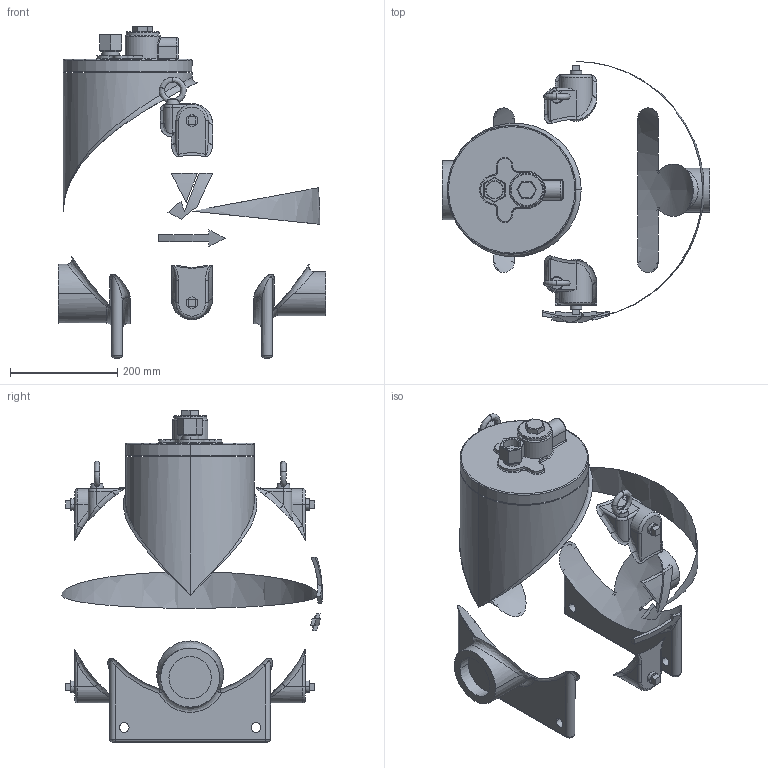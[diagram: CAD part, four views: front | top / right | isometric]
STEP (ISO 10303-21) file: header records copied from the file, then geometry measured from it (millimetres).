
FILE_DESCRIPTION( (''), '2;1');
FILE_NAME ('PC1027.9568.PF-7000 80A_17613.stp','2025-07-28T17:15:52',(''),(''),'spGate 19.8.4 (****-****-****-****)','','');
FILE_SCHEMA (('AUTOMOTIVE_DESIGN'));
Length unit declared in the file: millimetre
Products named in the file (4): Assembly; PF-7000 80A_M1; アイボルト M12; Plug R 1／2
Assembly tree (7 placements, depth 2):
  Assembly
    PF-7000 80A_M1
    アイボルト M12  x2
    Plug R 1／2  x4
Bounding box: 500 x 487 x 619.5 mm (x, y, z)
Volume: 7652984.5 mm3; surface area: 773372.2 mm2
Topology: 17 solids, 17 shells, 360 faces, 802 edges, 491 vertices
Faces by surface type: plane 134, bspline 104, cylinder 99, sphere 23
Entity records: 37639 total; most frequent: CARTESIAN_POINT 25098, ORIENTED_EDGE 1406, DIRECTION 1359, COLOUR_RGB 1014, PRESENTATION_STYLE_ASSIGNMENT 1014, STYLED_ITEM 1014, EDGE_CURVE 703, DRAUGHTING_PRE_DEFINED_CURVE_FONT 703
